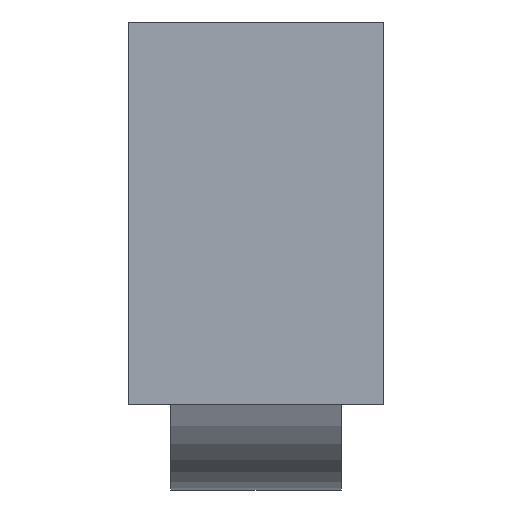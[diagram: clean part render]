
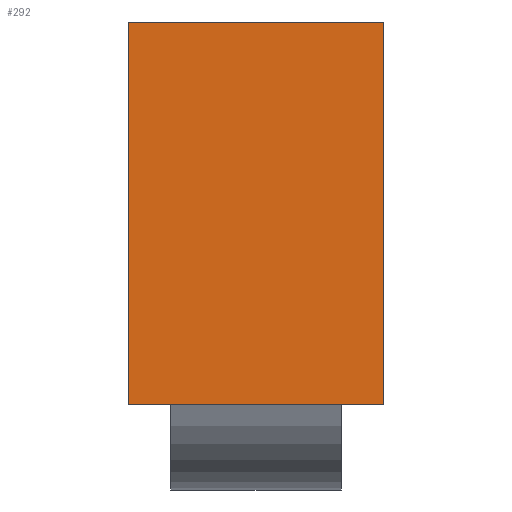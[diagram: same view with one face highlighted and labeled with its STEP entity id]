
A CAD part, front view. The second image highlights one B-rep face of the part: STEP entity #292.
In plain terms, the highlighted planar face has unit normal (0, -1, 0).
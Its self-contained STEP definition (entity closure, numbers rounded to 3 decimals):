
#30=FACE_OUTER_BOUND('',#46,.T.);
#46=EDGE_LOOP('',(#223,#224,#225,#226));
#72=LINE('',#455,#106);
#74=LINE('',#459,#108);
#77=LINE('',#464,#111);
#79=LINE('',#467,#113);
#106=VECTOR('',#364,10.);
#108=VECTOR('',#368,10.);
#111=VECTOR('',#373,10.);
#113=VECTOR('',#377,10.);
#139=VERTEX_POINT('',#452);
#140=VERTEX_POINT('',#454);
#141=VERTEX_POINT('',#458);
#142=VERTEX_POINT('',#463);
#166=EDGE_CURVE('',#140,#139,#72,.T.);
#168=EDGE_CURVE('',#141,#140,#74,.T.);
#171=EDGE_CURVE('',#142,#141,#77,.T.);
#173=EDGE_CURVE('',#139,#142,#79,.T.);
#223=ORIENTED_EDGE('',*,*,#173,.T.);
#224=ORIENTED_EDGE('',*,*,#171,.T.);
#225=ORIENTED_EDGE('',*,*,#168,.T.);
#226=ORIENTED_EDGE('',*,*,#166,.T.);
#278=PLANE('',#328);
#292=ADVANCED_FACE('',(#30),#278,.T.);
#328=AXIS2_PLACEMENT_3D('',#468,#378,#379);
#364=DIRECTION('',(1.,0.,0.));
#368=DIRECTION('',(0.,0.,-1.));
#373=DIRECTION('',(-1.,0.,0.));
#377=DIRECTION('',(0.,0.,1.));
#378=DIRECTION('center_axis',(0.,-1.,0.));
#379=DIRECTION('ref_axis',(0.,0.,-1.));
#452=CARTESIAN_POINT('',(30.,-60.,-10.));
#454=CARTESIAN_POINT('',(-30.,-60.,-10.));
#455=CARTESIAN_POINT('',(-30.,-60.,-10.));
#458=CARTESIAN_POINT('',(-30.,-60.,80.));
#459=CARTESIAN_POINT('',(-30.,-60.,80.));
#463=CARTESIAN_POINT('',(30.,-60.,80.));
#464=CARTESIAN_POINT('',(30.,-60.,80.));
#467=CARTESIAN_POINT('',(30.,-60.,-10.));
#468=CARTESIAN_POINT('Origin',(0.,-60.,35.));
